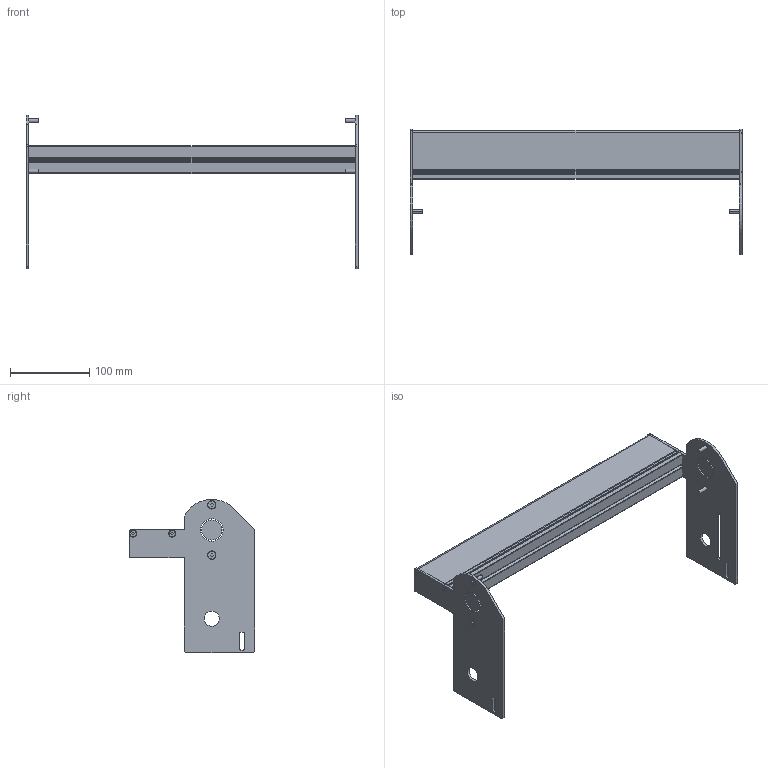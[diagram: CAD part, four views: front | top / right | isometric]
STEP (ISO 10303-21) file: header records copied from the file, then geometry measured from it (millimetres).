
FILE_DESCRIPTION((''),'2;1');
FILE_NAME('350712-16_ASM','2023-03-22T',('jenni.wallner'),(''),'PRO/ENGINEER BY PARAMETRIC TECHNOLOGY CORPORATION, 2012420','PRO/ENGINEER BY PARAMETRIC TECHNOLOGY CORPORATION, 2012420','');
FILE_SCHEMA(('CONFIG_CONTROL_DESIGN'));
Length unit declared in the file: inch
Products named in the file (6): 350669-16; 350667; 350668; 930412M; 930516M; 350712-16_ASM
Assembly tree (11 placements, depth 2):
  350712-16_ASM
    350669-16
    350667
    350668
    930412M  x4
    930516M  x4
Bounding box: 418.74 x 158.09 x 193.27 mm (x, y, z)
Volume: 438763.8 mm3; surface area: 289525.7 mm2
Topology: 11 solids, 11 shells, 334 faces, 872 edges, 568 vertices
Faces by surface type: plane 150, cylinder 136, cone 48
Entity records: 7775 total; most frequent: DIRECTION 1396, CARTESIAN_POINT 1323, ORIENTED_EDGE 1288, EDGE_CURVE 644, AXIS2_PLACEMENT_3D 505, VERTEX_POINT 424, VECTOR 386, LINE 386
